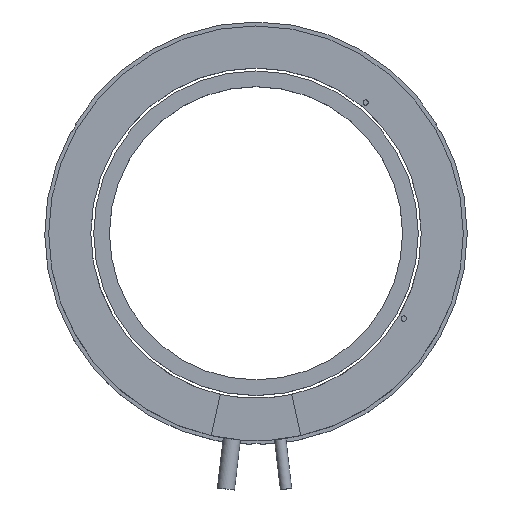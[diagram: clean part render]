
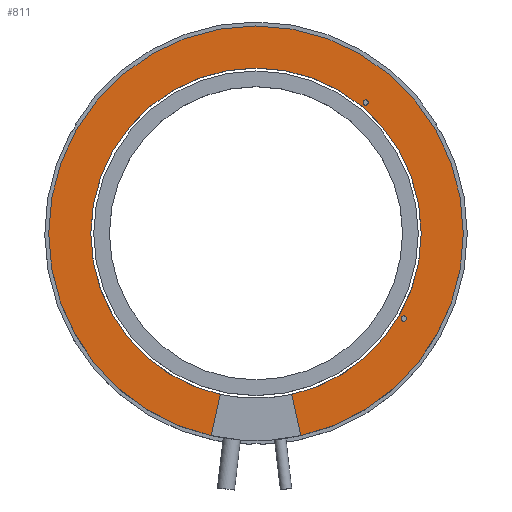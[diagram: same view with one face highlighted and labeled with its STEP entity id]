
A CAD part, top view. The second image highlights one B-rep face of the part: STEP entity #811.
In plain terms, the highlighted planar face has unit normal (0, 0, 1).
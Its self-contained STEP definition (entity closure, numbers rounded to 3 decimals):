
#1 = DIRECTION ( 'NONE',  ( 0., 0., 1. ) ) ;
#17 = DIRECTION ( 'NONE',  ( 0., 0., 1. ) ) ;
#32 = DIRECTION ( 'NONE',  ( -0.216, 0.976, 0. ) ) ;
#33 = AXIS2_PLACEMENT_3D ( 'NONE', #318, #1120, #1361 ) ;
#49 = AXIS2_PLACEMENT_3D ( 'NONE', #1263, #462, #698 ) ;
#51 = DIRECTION ( 'NONE',  ( 0., 0., 1. ) ) ;
#75 = CARTESIAN_POINT ( 'NONE',  ( 62.55, 0., 25. ) ) ;
#82 = FACE_OUTER_BOUND ( 'NONE', #147, .T. ) ;
#93 = DIRECTION ( 'NONE',  ( 1., 0., 0. ) ) ;
#97 = ORIENTED_EDGE ( 'NONE', *, *, #969, .T. ) ;
#111 = DIRECTION ( 'NONE',  ( 1., 0., 0. ) ) ;
#147 = EDGE_LOOP ( 'NONE', ( #467, #1284, #1386, #97, #574, #1229, #244, #375 ) ) ;
#149 = EDGE_CURVE ( 'NONE', #999, #1235, #1128, .T. ) ;
#151 = AXIS2_PLACEMENT_3D ( 'NONE', #550, #1018, #436 ) ;
#158 = CARTESIAN_POINT ( 'NONE',  ( -16.991, -76.639, 25. ) ) ;
#162 = EDGE_CURVE ( 'NONE', #690, #588, #762, .T. ) ;
#210 = CIRCLE ( 'NONE', #360, 1. ) ;
#211 = AXIS2_PLACEMENT_3D ( 'NONE', #75, #51, #651 ) ;
#237 = VECTOR ( 'NONE', #32, 1000. ) ;
#244 = ORIENTED_EDGE ( 'NONE', *, *, #1330, .F. ) ;
#266 = LINE ( 'NONE', #1069, #237 ) ;
#275 = CARTESIAN_POINT ( 'NONE',  ( 62.55, 0., 25. ) ) ;
#288 = CIRCLE ( 'NONE', #49, 62.55 ) ;
#318 = CARTESIAN_POINT ( 'NONE',  ( 0., 0., 25. ) ) ;
#322 = VERTEX_POINT ( 'NONE', #275 ) ;
#344 = DIRECTION ( 'NONE',  ( 1., 0., 0. ) ) ;
#360 = AXIS2_PLACEMENT_3D ( 'NONE', #366, #950, #389 ) ;
#366 = CARTESIAN_POINT ( 'NONE',  ( 55.945, -32.3, 25. ) ) ;
#375 = ORIENTED_EDGE ( 'NONE', *, *, #426, .F. ) ;
#380 = VERTEX_POINT ( 'NONE', #1353 ) ;
#382 = AXIS2_PLACEMENT_3D ( 'NONE', #591, #17, #481 ) ;
#389 = DIRECTION ( 'NONE',  ( 1., 0., 0. ) ) ;
#416 = AXIS2_PLACEMENT_3D ( 'NONE', #444, #1129, #93 ) ;
#426 = EDGE_CURVE ( 'NONE', #491, #322, #1132, .T. ) ;
#436 = DIRECTION ( 'NONE',  ( 1., 0., 0. ) ) ;
#444 = CARTESIAN_POINT ( 'NONE',  ( 0., 0., 25. ) ) ;
#457 = CARTESIAN_POINT ( 'NONE',  ( 0., 0., 25. ) ) ;
#462 = DIRECTION ( 'NONE',  ( 0., 0., 1. ) ) ;
#467 = ORIENTED_EDGE ( 'NONE', *, *, #696, .F. ) ;
#475 = CARTESIAN_POINT ( 'NONE',  ( -62.55, 0., 25. ) ) ;
#481 = DIRECTION ( 'NONE',  ( 1., 0., 0. ) ) ;
#491 = VERTEX_POINT ( 'NONE', #770 ) ;
#498 = VERTEX_POINT ( 'NONE', #655 ) ;
#532 = VERTEX_POINT ( 'NONE', #793 ) ;
#550 = CARTESIAN_POINT ( 'NONE',  ( 41.524, 49.486, 25. ) ) ;
#554 = CARTESIAN_POINT ( 'NONE',  ( 0., 0., 25. ) ) ;
#558 = ORIENTED_EDGE ( 'NONE', *, *, #162, .F. ) ;
#559 = CIRCLE ( 'NONE', #876, 1. ) ;
#574 = ORIENTED_EDGE ( 'NONE', *, *, #149, .F. ) ;
#588 = VERTEX_POINT ( 'NONE', #1282 ) ;
#590 = EDGE_CURVE ( 'NONE', #753, #999, #288, .T. ) ;
#591 = CARTESIAN_POINT ( 'NONE',  ( 41.524, 49.486, 25. ) ) ;
#594 = AXIS2_PLACEMENT_3D ( 'NONE', #554, #1345, #111 ) ;
#643 = CARTESIAN_POINT ( 'NONE',  ( 56.945, -32.3, 25. ) ) ;
#649 = DIRECTION ( 'NONE',  ( 1., 0., 0. ) ) ;
#651 = DIRECTION ( 'NONE',  ( 1., 0., 0. ) ) ;
#655 = CARTESIAN_POINT ( 'NONE',  ( -78.5, 0., 25. ) ) ;
#657 = CIRCLE ( 'NONE', #984, 78.5 ) ;
#690 = VERTEX_POINT ( 'NONE', #1279 ) ;
#696 = EDGE_CURVE ( 'NONE', #380, #491, #266, .T. ) ;
#698 = DIRECTION ( 'NONE',  ( 1., 0., 0. ) ) ;
#701 = EDGE_LOOP ( 'NONE', ( #855, #1066 ) ) ;
#728 = FACE_BOUND ( 'NONE', #701, .T. ) ;
#737 = VECTOR ( 'NONE', #1416, 1000. ) ;
#753 = VERTEX_POINT ( 'NONE', #475 ) ;
#762 = CIRCLE ( 'NONE', #382, 1. ) ;
#770 = CARTESIAN_POINT ( 'NONE',  ( 13.538, -61.067, 25. ) ) ;
#772 = EDGE_CURVE ( 'NONE', #532, #1226, #210, .T. ) ;
#793 = CARTESIAN_POINT ( 'NONE',  ( 54.945, -32.3, 25. ) ) ;
#798 = CIRCLE ( 'NONE', #33, 62.55 ) ;
#811 = ADVANCED_FACE ( 'NONE', ( #728, #1198, #82 ), #1460, .T. ) ;
#855 = ORIENTED_EDGE ( 'NONE', *, *, #1251, .F. ) ;
#876 = AXIS2_PLACEMENT_3D ( 'NONE', #972, #1092, #1334 ) ;
#907 = DIRECTION ( 'NONE',  ( 0., 0., 1. ) ) ;
#930 = ORIENTED_EDGE ( 'NONE', *, *, #979, .F. ) ;
#950 = DIRECTION ( 'NONE',  ( 0., 0., 1. ) ) ;
#969 = EDGE_CURVE ( 'NONE', #498, #1235, #1145, .T. ) ;
#972 = CARTESIAN_POINT ( 'NONE',  ( 55.945, -32.3, 25. ) ) ;
#979 = EDGE_CURVE ( 'NONE', #588, #690, #1259, .T. ) ;
#984 = AXIS2_PLACEMENT_3D ( 'NONE', #1045, #1, #344 ) ;
#999 = VERTEX_POINT ( 'NONE', #1246 ) ;
#1018 = DIRECTION ( 'NONE',  ( 0., 0., 1. ) ) ;
#1045 = CARTESIAN_POINT ( 'NONE',  ( 0., 0., 25. ) ) ;
#1058 = CARTESIAN_POINT ( 'NONE',  ( -13.538, -61.067, 25. ) ) ;
#1066 = ORIENTED_EDGE ( 'NONE', *, *, #772, .F. ) ;
#1069 = CARTESIAN_POINT ( 'NONE',  ( 13.538, -61.067, 25. ) ) ;
#1083 = CARTESIAN_POINT ( 'NONE',  ( 78.5, 0., 25. ) ) ;
#1092 = DIRECTION ( 'NONE',  ( 0., 0., 1. ) ) ;
#1120 = DIRECTION ( 'NONE',  ( 0., 0., 1. ) ) ;
#1128 = LINE ( 'NONE', #1058, #737 ) ;
#1129 = DIRECTION ( 'NONE',  ( 0., 0., 1. ) ) ;
#1132 = CIRCLE ( 'NONE', #594, 62.55 ) ;
#1145 = CIRCLE ( 'NONE', #416, 78.5 ) ;
#1191 = AXIS2_PLACEMENT_3D ( 'NONE', #457, #907, #649 ) ;
#1198 = FACE_BOUND ( 'NONE', #1456, .T. ) ;
#1226 = VERTEX_POINT ( 'NONE', #643 ) ;
#1229 = ORIENTED_EDGE ( 'NONE', *, *, #590, .F. ) ;
#1235 = VERTEX_POINT ( 'NONE', #158 ) ;
#1236 = VERTEX_POINT ( 'NONE', #1083 ) ;
#1246 = CARTESIAN_POINT ( 'NONE',  ( -13.538, -61.067, 25. ) ) ;
#1251 = EDGE_CURVE ( 'NONE', #1226, #532, #559, .T. ) ;
#1259 = CIRCLE ( 'NONE', #151, 1. ) ;
#1263 = CARTESIAN_POINT ( 'NONE',  ( 0., 0., 25. ) ) ;
#1279 = CARTESIAN_POINT ( 'NONE',  ( 40.524, 49.486, 25. ) ) ;
#1282 = CARTESIAN_POINT ( 'NONE',  ( 42.524, 49.486, 25. ) ) ;
#1284 = ORIENTED_EDGE ( 'NONE', *, *, #1316, .T. ) ;
#1316 = EDGE_CURVE ( 'NONE', #380, #1236, #1339, .T. ) ;
#1330 = EDGE_CURVE ( 'NONE', #322, #753, #798, .T. ) ;
#1334 = DIRECTION ( 'NONE',  ( 1., 0., 0. ) ) ;
#1339 = CIRCLE ( 'NONE', #1191, 78.5 ) ;
#1345 = DIRECTION ( 'NONE',  ( 0., 0., 1. ) ) ;
#1353 = CARTESIAN_POINT ( 'NONE',  ( 16.991, -76.639, 25. ) ) ;
#1361 = DIRECTION ( 'NONE',  ( 1., 0., 0. ) ) ;
#1386 = ORIENTED_EDGE ( 'NONE', *, *, #1438, .T. ) ;
#1416 = DIRECTION ( 'NONE',  ( -0.216, -0.976, 0. ) ) ;
#1438 = EDGE_CURVE ( 'NONE', #1236, #498, #657, .T. ) ;
#1456 = EDGE_LOOP ( 'NONE', ( #930, #558 ) ) ;
#1460 = PLANE ( 'NONE',  #211 ) ;
